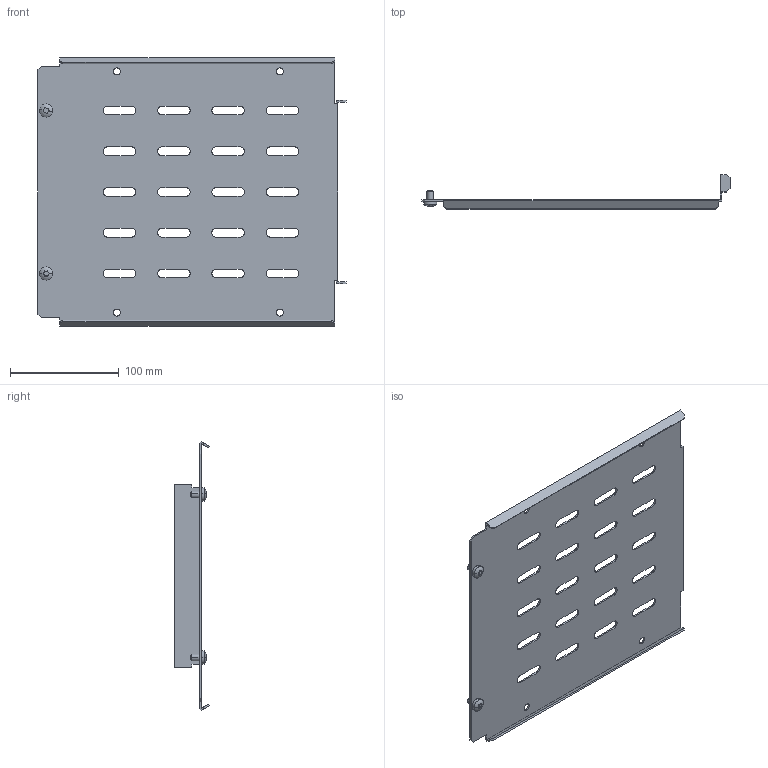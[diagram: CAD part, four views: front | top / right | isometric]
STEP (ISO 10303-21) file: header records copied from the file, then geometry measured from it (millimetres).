
FILE_DESCRIPTION (( 'STEP AP214' ), '1' );
FILE_NAME ('FO-00-SWFÑ-025 Ïåðåãîðîäêà ñåêöèîíèðîâàíèÿ çàäíÿÿ äëÿ âåðòèêàëüíîãî êàáåëüíîãî îòñåêà âûñîòà 250 ìì â øêàô øèðèíîé 600 ìì.STEP', '2025-08-13T12:27:48', ( '' ), ( '' ), 'SwSTEP 2.0', 'SolidWorks 2023', '' );
FILE_SCHEMA (( 'AUTOMOTIVE_DESIGN' ));
Length unit declared in the file: millimetre
Products named in the file (1): FO-00-SWFС-025 Перегородка секционирования задняя для вертикального кабельного отсека высота 250 мм в шкаф шириной 600 мм
Bounding box: 283.5 x 31.66 x 247.2 mm (x, y, z)
Volume: 107213 mm3; surface area: 146050.2 mm2
Topology: 1 solids, 1 shells, 206 faces, 588 edges, 388 vertices
Faces by surface type: plane 104, cylinder 90, torus 4, cone 4, sphere 4
Entity records: 6907 total; most frequent: CARTESIAN_POINT 1317, ORIENTED_EDGE 1176, DIRECTION 1134, EDGE_CURVE 588, LINE 388, VERTEX_POINT 388, VECTOR 388, AXIS2_PLACEMENT_3D 373
